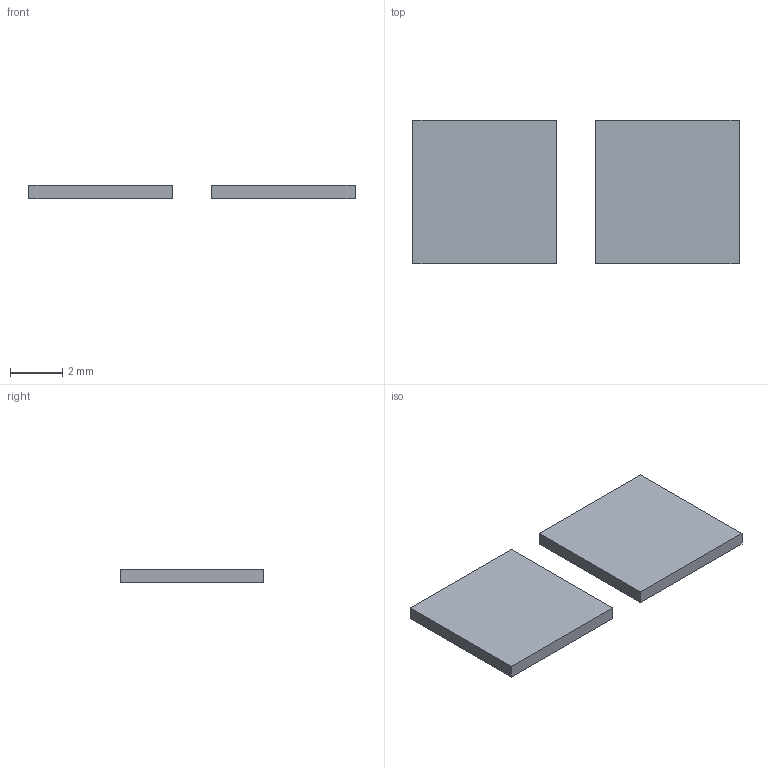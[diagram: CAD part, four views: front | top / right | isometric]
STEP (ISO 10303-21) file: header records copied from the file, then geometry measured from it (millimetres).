
FILE_DESCRIPTION(('AVO Performance Horse - montaje de la cincha (B-rep poliedrico)'),'2;1');
FILE_NAME('AVO_CINCHA_R6_9_tapas_imanes_PETG','2026-11-15T12:00:00',('AVO Performance Horse'),('AVO Performance Horse'),'avo_cad.py','avo_cad.py (numpy)','');
FILE_SCHEMA(('AUTOMOTIVE_DESIGN { 1 0 10303 214 1 1 1 1 }'));
Length unit declared in the file: millimetre
Products named in the file (1): AVO_CINCHA_R6_9_tapas_imanes_PETG
Bounding box: 12.5 x 5.5 x 0.5 mm (x, y, z)
Volume: 30.2 mm3; surface area: 143 mm2
Topology: 2 solids, 2 shells, 12 faces, 24 edges, 16 vertices
Faces by surface type: plane 12
Entity records: 245 total; most frequent: ORIENTED_EDGE 48, VECTOR 24, LINE 24, EDGE_CURVE 24, CARTESIAN_POINT 17, VERTEX_POINT 16, AXIS2_PLACEMENT_3D 13, EDGE_LOOP 12
